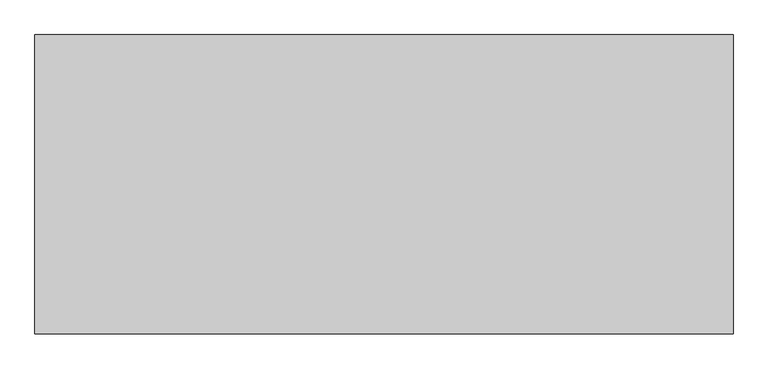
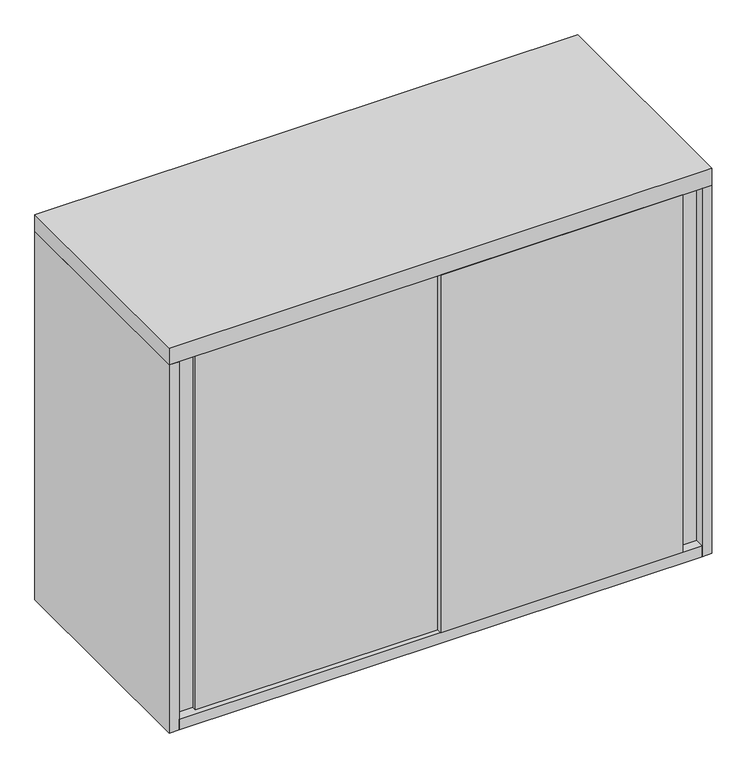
"""IFC4 building model written with IfcOpenShell, lengths in millimetres: furniture geometry, Steelcase - 900 Series - Storage - Overfile Cabinet - Flush Steel : With Sliding Door - 42W x 31 1/2H."""

from ifc_helpers import new_model, si_unit, frame, origin, place, context, project, spatial, polyline, outline, extrude, source, transform, mapped, element, save


def furniture_46067244(model_context):
    return source(origin(), model_context, "Body", "SweptSolid", [
        extrude(outline(polyline([(533.4, -457.2), (533.4, -431.8), (1047.4960184, -431.8), (1047.4960184, -438.15), (1009.3960184, -438.15), (1009.3960184, -457.2), (533.4, -457.2)])), frame((0.0, 0.0, 1268.6029516), z_axis=(0.0, 0.0, 1.0), x_axis=(1.0, 0.0, 0.0)), (0.0, 0.0, 1.0), 742.95),
        extrude(outline(polyline([(19.3039998, -431.8), (533.4, -431.8), (533.4, -447.675), (57.1499992, -447.675), (57.1499992, -438.15), (19.3039998, -438.15), (19.3039998, -431.8)])), frame((0.0, 0.0, 1268.6029516), z_axis=(0.0, 0.0, 1.0), x_axis=(1.0, 0.0, 0.0)), (0.0, 0.0, 1.0), 742.95),
        extrude(outline(polyline([(1047.4960184, -6.3500002), (1047.4960184, -457.2), (19.3039998, -457.2), (19.3039998, -6.3500002), (1047.4960184, -6.3500002)])), frame((0.0, 0.0, 1246.378), z_axis=(0.0, 0.0, 1.0), x_axis=(1.0, 0.0, 0.0)), (0.0, 0.0, 1.0), 22.2249516),
        extrude(outline(polyline([(1066.8, 0.0), (1066.8, -457.2), (0.0, -457.2), (0.0, 0.0), (1066.8, 0.0)])), frame((0.0, 0.0, 2011.5529516), z_axis=(0.0, 0.0, 1.0), x_axis=(1.0, 0.0, 0.0)), (0.0, 0.0, 1.0), 34.9250484),
        extrude(outline(polyline([(1047.4960184, -6.3500002), (19.3039998, -6.3500002), (19.3039998, -457.2), (0.0, -457.2), (0.0, 0.0), (1066.8, 0.0), (1066.8, -457.2), (1047.4960184, -457.2), (1047.4960184, -6.3500002)])), frame((0.0, 0.0, 1246.378), z_axis=(0.0, 0.0, 1.0), x_axis=(1.0, 0.0, 0.0)), (0.0, 0.0, 1.0), 765.1749516),
    ])


if __name__ == "__main__":
    model = new_model("IFC4")
    model_context = context("Model", 3, world=origin())
    ifc_project = project(units=[si_unit("LENGTHUNIT", "METRE", prefix="MILLI")], contexts=[model_context])
    site = spatial("IfcSite", under=ifc_project)
    building = spatial("IfcBuilding", under=site)
    placement = place(None, origin())
    furniture_shape = furniture_46067244(model_context)
    element("IfcFurniture", 1, ObjectType="Steelcase - 900 Series - Storage - Overfile Cabinet - Flush Steel : With Sliding Door - 42W x 31 1/2H", at=placement, inside=building, context=model_context, shape_type="MappedRepresentation", body=[
        mapped(furniture_shape, transform((0.0, 0.0, 0.0), x_axis=(1.0, 0.0, 0.0), y_axis=(0.0, 1.0, 0.0), z_axis=(0.0, 0.0, 1.0))),
    ])
    save(model, "model.ifc")
